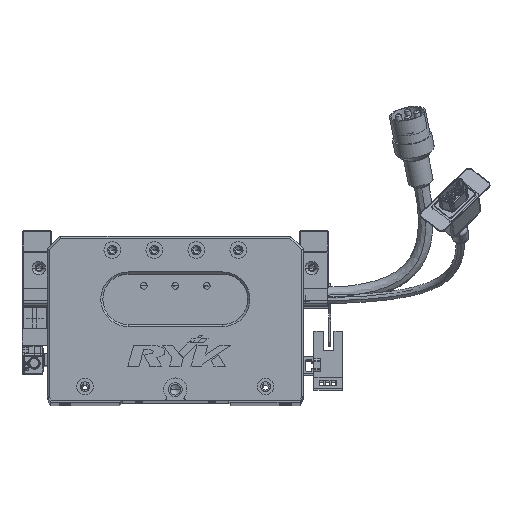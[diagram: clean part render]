
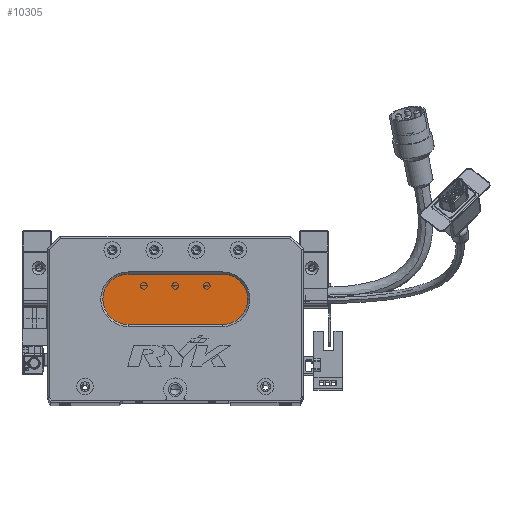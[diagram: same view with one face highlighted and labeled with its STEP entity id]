
A CAD part, top view. The second image highlights one B-rep face of the part: STEP entity #10305.
In plain terms, the highlighted planar face has unit normal (0, 0, 1) as drawn and (0, 0, -1) by its records, which use the part's own axes.
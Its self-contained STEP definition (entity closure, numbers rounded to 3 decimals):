
#599 = CIRCLE ( 'NONE', #37731, 12. ) ;
#2361 = EDGE_CURVE ( 'NONE', #12655, #24844, #37818, .T. ) ;
#2539 = DIRECTION ( 'NONE',  ( -1., 0., 0. ) ) ;
#3386 = LINE ( 'NONE', #4563, #61665 ) ;
#4563 = CARTESIAN_POINT ( 'NONE',  ( 83.5, 60., 13. ) ) ;
#8338 = EDGE_CURVE ( 'NONE', #11455, #16066, #3386, .T. ) ;
#10032 = DIRECTION ( 'NONE',  ( 1., 0., 0. ) ) ;
#10305 = ADVANCED_FACE ( 'NONE', ( #65164 ), #14685, .T. ) ;
#11455 = VERTEX_POINT ( 'NONE', #33359 ) ;
#12655 = VERTEX_POINT ( 'NONE', #55442 ) ;
#12944 = CARTESIAN_POINT ( 'NONE',  ( 38.5, 48., 13. ) ) ;
#13561 = DIRECTION ( 'NONE',  ( -1., 0., 0. ) ) ;
#14685 = PLANE ( 'NONE',  #81471 ) ;
#16066 = VERTEX_POINT ( 'NONE', #73829 ) ;
#18834 = CARTESIAN_POINT ( 'NONE',  ( 38.5, 48., 13. ) ) ;
#21809 = EDGE_CURVE ( 'NONE', #16066, #12655, #74117, .T. ) ;
#24844 = VERTEX_POINT ( 'NONE', #33552 ) ;
#27052 = ORIENTED_EDGE ( 'NONE', *, *, #77776, .T. ) ;
#27074 = DIRECTION ( 'NONE',  ( -1., 0., 0. ) ) ;
#30220 = ORIENTED_EDGE ( 'NONE', *, *, #21809, .T. ) ;
#30464 = CIRCLE ( 'NONE', #60920, 12. ) ;
#31785 = DIRECTION ( 'NONE',  ( 0., 0., -1. ) ) ;
#33359 = CARTESIAN_POINT ( 'NONE',  ( 38.5, 60., 13. ) ) ;
#33397 = DIRECTION ( 'NONE',  ( -1., 0., 0. ) ) ;
#33552 = CARTESIAN_POINT ( 'NONE',  ( 38.5, 36., 13. ) ) ;
#33744 = CARTESIAN_POINT ( 'NONE',  ( 83.5, 48., 13. ) ) ;
#37731 = AXIS2_PLACEMENT_3D ( 'NONE', #18834, #75843, #44458 ) ;
#37818 = LINE ( 'NONE', #39420, #67412 ) ;
#38637 = CARTESIAN_POINT ( 'NONE',  ( 83.5, 48., 13. ) ) ;
#39420 = CARTESIAN_POINT ( 'NONE',  ( 83.5, 36., 13. ) ) ;
#41656 = VERTEX_POINT ( 'NONE', #52393 ) ;
#44458 = DIRECTION ( 'NONE',  ( -1., 0., 0. ) ) ;
#45821 = ORIENTED_EDGE ( 'NONE', *, *, #2361, .T. ) ;
#46584 = DIRECTION ( 'NONE',  ( 0., 0., -1. ) ) ;
#52393 = CARTESIAN_POINT ( 'NONE',  ( 26.5, 48., 13. ) ) ;
#55442 = CARTESIAN_POINT ( 'NONE',  ( 83.5, 36., 13. ) ) ;
#57836 = ORIENTED_EDGE ( 'NONE', *, *, #67241, .T. ) ;
#60920 = AXIS2_PLACEMENT_3D ( 'NONE', #12944, #46584, #27074 ) ;
#61665 = VECTOR ( 'NONE', #10032, 1000. ) ;
#64652 = DIRECTION ( 'NONE',  ( 0., 0., -1. ) ) ;
#65164 = FACE_OUTER_BOUND ( 'NONE', #74317, .T. ) ;
#65732 = ORIENTED_EDGE ( 'NONE', *, *, #8338, .T. ) ;
#67241 = EDGE_CURVE ( 'NONE', #24844, #41656, #30464, .T. ) ;
#67412 = VECTOR ( 'NONE', #33397, 1000. ) ;
#72912 = AXIS2_PLACEMENT_3D ( 'NONE', #38637, #31785, #13561 ) ;
#73829 = CARTESIAN_POINT ( 'NONE',  ( 83.5, 60., 13. ) ) ;
#74117 = CIRCLE ( 'NONE', #72912, 12. ) ;
#74317 = EDGE_LOOP ( 'NONE', ( #30220, #45821, #57836, #27052, #65732 ) ) ;
#75843 = DIRECTION ( 'NONE',  ( 0., 0., -1. ) ) ;
#77776 = EDGE_CURVE ( 'NONE', #41656, #11455, #599, .T. ) ;
#81471 = AXIS2_PLACEMENT_3D ( 'NONE', #33744, #64652, #2539 ) ;
